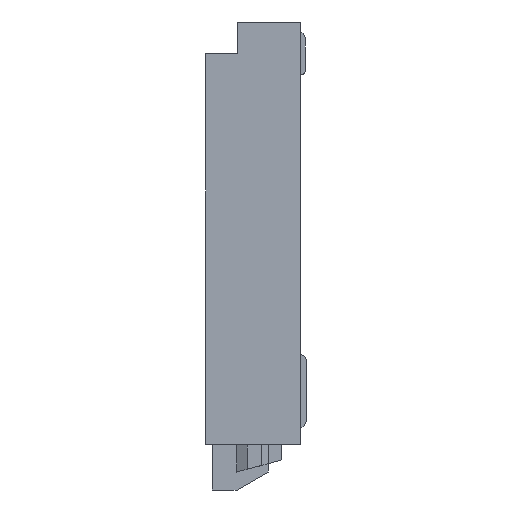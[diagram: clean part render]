
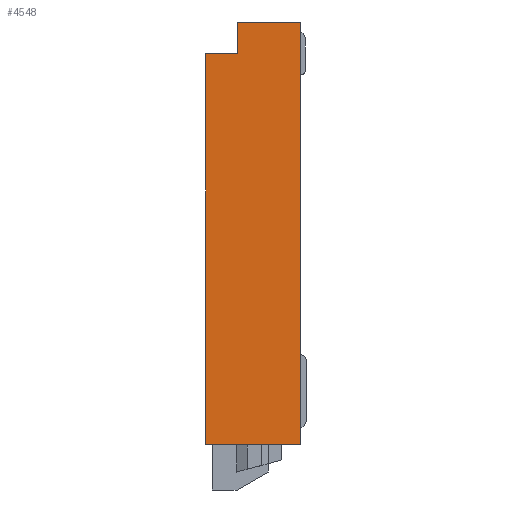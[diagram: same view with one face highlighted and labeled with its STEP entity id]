
A CAD part, left-side view. The second image highlights one B-rep face of the part: STEP entity #4548.
In plain terms, the highlighted planar face has unit normal (-1, 0, 0).
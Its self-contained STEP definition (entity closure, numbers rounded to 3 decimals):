
#840 = EDGE_CURVE ( 'NONE', #2114, #2602, #5865, .T. ) ;
#843 = EDGE_CURVE ( 'NONE', #2602, #2540, #5868, .T. ) ;
#844 = EDGE_CURVE ( 'NONE', #2114, #2252, #5869, .T. ) ;
#1517 = CARTESIAN_POINT ( 'NONE',  ( -6.2, 0.6, 0. ) ) ;
#1518 = DIRECTION ( 'NONE',  ( 0., 0., -1. ) ) ;
#1534 = CARTESIAN_POINT ( 'NONE',  ( -6.2, 1.5, -0.3 ) ) ;
#1535 = DIRECTION ( 'NONE',  ( 0., 1., 0. ) ) ;
#1887 = EDGE_CURVE ( 'NONE', #2375, #2540, #6019, .T. ) ;
#2114 = VERTEX_POINT ( 'NONE', #3472 ) ;
#2252 = VERTEX_POINT ( 'NONE', #2953 ) ;
#2375 = VERTEX_POINT ( 'NONE', #9869 ) ;
#2378 = VERTEX_POINT ( 'NONE', #9867 ) ;
#2540 = VERTEX_POINT ( 'NONE', #9695 ) ;
#2602 = VERTEX_POINT ( 'NONE', #9623 ) ;
#2953 = CARTESIAN_POINT ( 'NONE',  ( -6.2, 0.6, 0. ) ) ;
#3102 = DIRECTION ( 'NONE',  ( 0., 0., -1. ) ) ;
#3104 = CARTESIAN_POINT ( 'NONE',  ( -6.2, 0.9, 0. ) ) ;
#3472 = CARTESIAN_POINT ( 'NONE',  ( -6.2, 0., 0. ) ) ;
#3736 = DIRECTION ( 'NONE',  ( 0., 1., 0. ) ) ;
#3737 = CARTESIAN_POINT ( 'NONE',  ( -6.2, 0.9, 0. ) ) ;
#3738 = DIRECTION ( 'NONE',  ( 0., 1., 0. ) ) ;
#3739 = CARTESIAN_POINT ( 'NONE',  ( -6.2, 0., -4. ) ) ;
#3746 = DIRECTION ( 'NONE',  ( 0., 0., -1. ) ) ;
#3748 = CARTESIAN_POINT ( 'NONE',  ( -6.2, 0., 0. ) ) ;
#4269 = ORIENTED_EDGE ( 'NONE', *, *, #8864, .T. ) ;
#4279 = ORIENTED_EDGE ( 'NONE', *, *, #8856, .T. ) ;
#4288 = ORIENTED_EDGE ( 'NONE', *, *, #843, .F. ) ;
#4324 = ORIENTED_EDGE ( 'NONE', *, *, #1887, .T. ) ;
#4327 = ORIENTED_EDGE ( 'NONE', *, *, #844, .T. ) ;
#4548 = ADVANCED_FACE ( 'NONE', ( #6192 ), #9354, .T. ) ;
#4728 = EDGE_LOOP ( 'NONE', ( #4327, #4279, #4269, #4324, #4288, #5190 ) ) ;
#5190 = ORIENTED_EDGE ( 'NONE', *, *, #840, .F. ) ;
#5865 = LINE ( 'NONE', #3748, #6892 ) ;
#5868 = LINE ( 'NONE', #3739, #6895 ) ;
#5869 = LINE ( 'NONE', #3737, #6896 ) ;
#6019 = LINE ( 'NONE', #3104, #7133 ) ;
#6192 = FACE_OUTER_BOUND ( 'NONE', #4728, .T. ) ;
#6892 = VECTOR ( 'NONE', #3746, 1000. ) ;
#6895 = VECTOR ( 'NONE', #3738, 1000. ) ;
#6896 = VECTOR ( 'NONE', #3736, 1000. ) ;
#7133 = VECTOR ( 'NONE', #3102, 1000. ) ;
#8458 = AXIS2_PLACEMENT_3D ( 'NONE', #9351, #9350, #9348 ) ;
#8679 = VECTOR ( 'NONE', #1535, 1000. ) ;
#8764 = VECTOR ( 'NONE', #1518, 1000. ) ;
#8856 = EDGE_CURVE ( 'NONE', #2252, #2378, #10971, .T. ) ;
#8864 = EDGE_CURVE ( 'NONE', #2378, #2375, #10978, .T. ) ;
#9348 = DIRECTION ( 'NONE',  ( 0., 0., 1. ) ) ;
#9350 = DIRECTION ( 'NONE',  ( -1., 0., 0. ) ) ;
#9351 = CARTESIAN_POINT ( 'NONE',  ( -6.2, 0.9, 0. ) ) ;
#9354 = PLANE ( 'NONE',  #8458 ) ;
#9623 = CARTESIAN_POINT ( 'NONE',  ( -6.2, 0., -4. ) ) ;
#9695 = CARTESIAN_POINT ( 'NONE',  ( -6.2, 0.9, -4. ) ) ;
#9867 = CARTESIAN_POINT ( 'NONE',  ( -6.2, 0.6, -0.3 ) ) ;
#9869 = CARTESIAN_POINT ( 'NONE',  ( -6.2, 0.9, -0.3 ) ) ;
#10971 = LINE ( 'NONE', #1517, #8764 ) ;
#10978 = LINE ( 'NONE', #1534, #8679 ) ;
